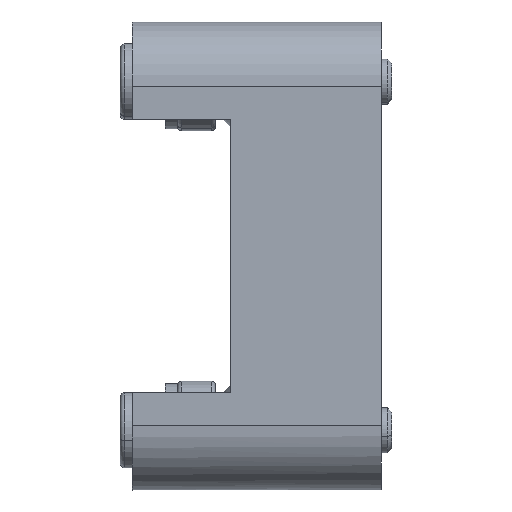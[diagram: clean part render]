
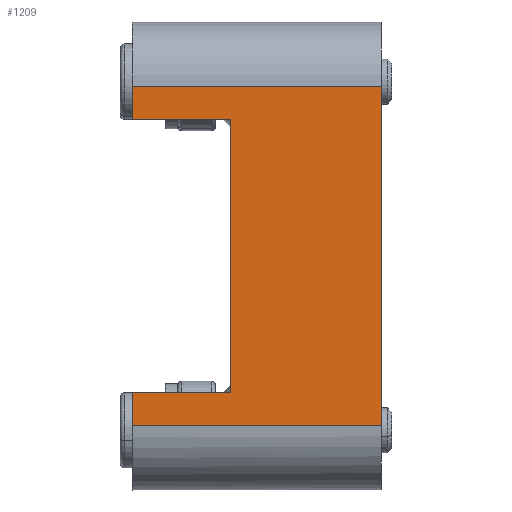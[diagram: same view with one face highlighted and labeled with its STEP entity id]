
A CAD part, left-side view. The second image highlights one B-rep face of the part: STEP entity #1209.
In plain terms, the highlighted planar face has unit normal (-1, 0, 0).
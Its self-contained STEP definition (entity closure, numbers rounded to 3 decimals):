
#442 = EDGE_CURVE ( 'NONE', #789, #773, #4422, .T. ) ;
#456 = EDGE_CURVE ( 'NONE', #764, #767, #4458, .T. ) ;
#483 = EDGE_CURVE ( 'NONE', #793, #764, #4549, .T. ) ;
#484 = EDGE_CURVE ( 'NONE', #793, #878, #4552, .T. ) ;
#485 = EDGE_CURVE ( 'NONE', #878, #877, #4542, .T. ) ;
#486 = EDGE_CURVE ( 'NONE', #877, #773, #4558, .T. ) ;
#487 = EDGE_CURVE ( 'NONE', #879, #789, #4561, .T. ) ;
#488 = EDGE_CURVE ( 'NONE', #879, #767, #4564, .T. ) ;
#764 = VERTEX_POINT ( 'NONE', #4632 ) ;
#767 = VERTEX_POINT ( 'NONE', #4635 ) ;
#773 = VERTEX_POINT ( 'NONE', #4641 ) ;
#789 = VERTEX_POINT ( 'NONE', #4657 ) ;
#793 = VERTEX_POINT ( 'NONE', #4661 ) ;
#877 = VERTEX_POINT ( 'NONE', #4685 ) ;
#878 = VERTEX_POINT ( 'NONE', #4686 ) ;
#879 = VERTEX_POINT ( 'NONE', #4687 ) ;
#950 = EDGE_LOOP ( 'NONE', ( #2133, #2185, #2134, #2170, #2171, #2165, #2166, #2158 ) ) ;
#1209 = ADVANCED_FACE ( 'NONE', ( #5293 ), #5294, .F. ) ;
#2133 = ORIENTED_EDGE ( 'NONE', *, *, #456, .F. ) ;
#2134 = ORIENTED_EDGE ( 'NONE', *, *, #484, .T. ) ;
#2158 = ORIENTED_EDGE ( 'NONE', *, *, #488, .T. ) ;
#2165 = ORIENTED_EDGE ( 'NONE', *, *, #442, .F. ) ;
#2166 = ORIENTED_EDGE ( 'NONE', *, *, #487, .F. ) ;
#2170 = ORIENTED_EDGE ( 'NONE', *, *, #485, .T. ) ;
#2171 = ORIENTED_EDGE ( 'NONE', *, *, #486, .T. ) ;
#2185 = ORIENTED_EDGE ( 'NONE', *, *, #483, .F. ) ;
#3899 = VECTOR ( 'NONE', #4426, 1000. ) ;
#3920 = VECTOR ( 'NONE', #4469, 1000. ) ;
#3954 = VECTOR ( 'NONE', #4557, 1000. ) ;
#3955 = VECTOR ( 'NONE', #4551, 1000. ) ;
#3956 = VECTOR ( 'NONE', #4555, 1000. ) ;
#3958 = VECTOR ( 'NONE', #4560, 1000. ) ;
#3959 = VECTOR ( 'NONE', #4563, 1000. ) ;
#3960 = VECTOR ( 'NONE', #4567, 1000. ) ;
#4193 = AXIS2_PLACEMENT_3D ( 'NONE', #5289, #5296, #5297 ) ;
#4419 = CARTESIAN_POINT ( 'NONE',  ( 0., 20., 40. ) ) ;
#4422 = LINE ( 'NONE', #4419, #3899 ) ;
#4426 = DIRECTION ( 'NONE',  ( 0., -1., 0. ) ) ;
#4458 = LINE ( 'NONE', #4468, #3920 ) ;
#4468 = CARTESIAN_POINT ( 'NONE',  ( 0., 20., -10. ) ) ;
#4469 = DIRECTION ( 'NONE',  ( 0., 0., 1. ) ) ;
#4542 = LINE ( 'NONE', #4556, #3954 ) ;
#4549 = LINE ( 'NONE', #4550, #3955 ) ;
#4550 = CARTESIAN_POINT ( 'NONE',  ( 0., 33., -0.6 ) ) ;
#4551 = DIRECTION ( 'NONE',  ( 0., -1., 0. ) ) ;
#4552 = LINE ( 'NONE', #4554, #3956 ) ;
#4554 = CARTESIAN_POINT ( 'NONE',  ( 0., 33., -5. ) ) ;
#4555 = DIRECTION ( 'NONE',  ( 0., 0., -1. ) ) ;
#4556 = CARTESIAN_POINT ( 'NONE',  ( 0., 20., -5. ) ) ;
#4557 = DIRECTION ( 'NONE',  ( 0., -1., 0. ) ) ;
#4558 = LINE ( 'NONE', #4559, #3958 ) ;
#4559 = CARTESIAN_POINT ( 'NONE',  ( 0., 0., -10. ) ) ;
#4560 = DIRECTION ( 'NONE',  ( 0., 0., 1. ) ) ;
#4561 = LINE ( 'NONE', #4562, #3959 ) ;
#4562 = CARTESIAN_POINT ( 'NONE',  ( 0., 33., 40. ) ) ;
#4563 = DIRECTION ( 'NONE',  ( 0., 0., 1. ) ) ;
#4564 = LINE ( 'NONE', #4566, #3960 ) ;
#4566 = CARTESIAN_POINT ( 'NONE',  ( 0., 33., 35.6 ) ) ;
#4567 = DIRECTION ( 'NONE',  ( 0., -1., 0. ) ) ;
#4632 = CARTESIAN_POINT ( 'NONE',  ( 0., 20., -0.6 ) ) ;
#4635 = CARTESIAN_POINT ( 'NONE',  ( 0., 20., 35.6 ) ) ;
#4641 = CARTESIAN_POINT ( 'NONE',  ( 0., 0., 40. ) ) ;
#4657 = CARTESIAN_POINT ( 'NONE',  ( 0., 33., 40. ) ) ;
#4661 = CARTESIAN_POINT ( 'NONE',  ( 0., 33., -0.6 ) ) ;
#4685 = CARTESIAN_POINT ( 'NONE',  ( 0., 0., -5. ) ) ;
#4686 = CARTESIAN_POINT ( 'NONE',  ( 0., 33., -5. ) ) ;
#4687 = CARTESIAN_POINT ( 'NONE',  ( 0., 33., 35.6 ) ) ;
#5289 = CARTESIAN_POINT ( 'NONE',  ( 0., 20., -10. ) ) ;
#5293 = FACE_OUTER_BOUND ( 'NONE', #950, .T. ) ;
#5294 = PLANE ( 'NONE',  #4193 ) ;
#5296 = DIRECTION ( 'NONE',  ( 1., 0., 0. ) ) ;
#5297 = DIRECTION ( 'NONE',  ( 0., 0., -1. ) ) ;
